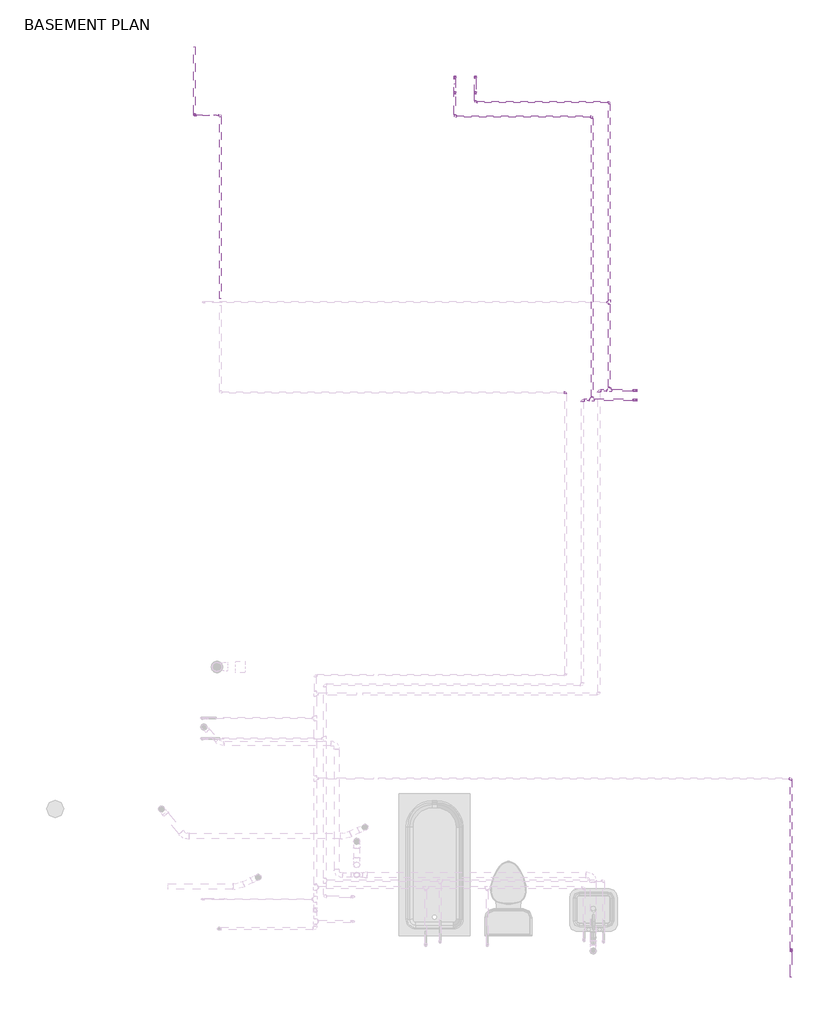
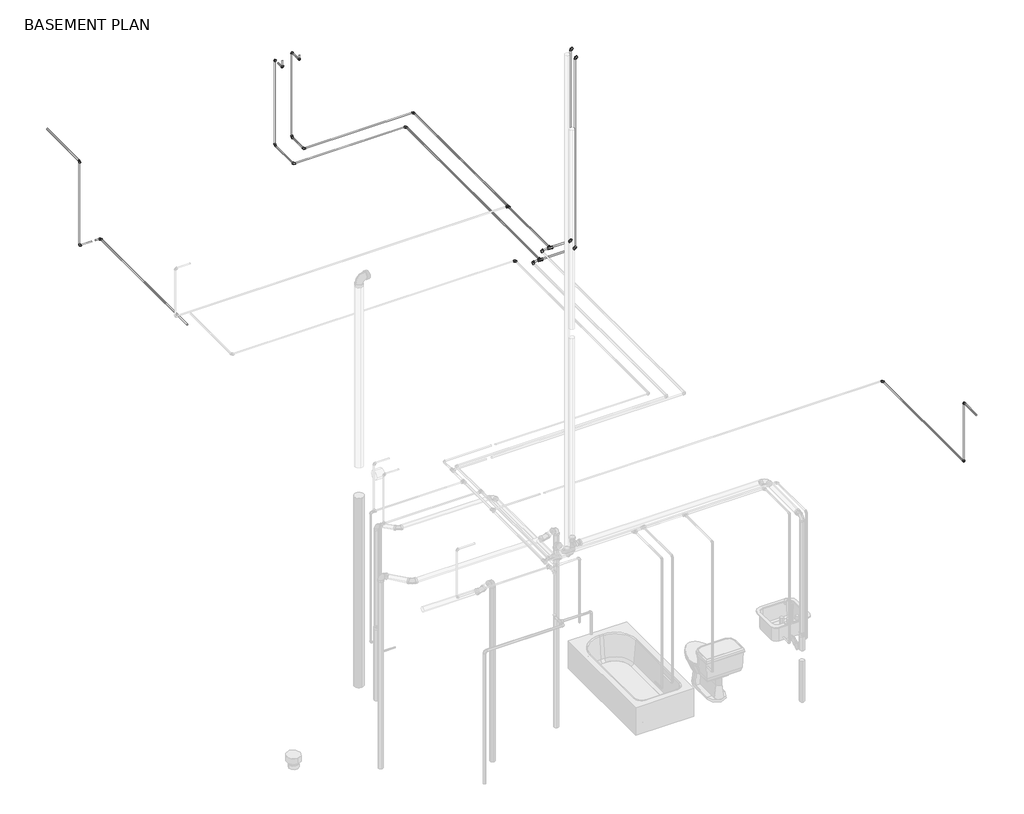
# One storey, part 6 of 6: 28 pipe fittings, 28 pipe segments.
"""IFC4 building model written with IfcOpenShell, lengths in millimetres."""

from ifc_helpers import new_model, si_unit, point, frame, frame_2d, origin, place, context, project, spatial, circle_curve, trimmed, segment, composite_curve, outline, extrude, transform, mapped, element, save
from components import pipe_elbow_copper_k_feaaf02c, pipe_elbow_copper_k_aad62f2d, pipe_tee_copper_k_ee363fbf, pipe_tee_copper_k_1a6ca384, pipe_transition_copper_k_859ff352

model = new_model("IFC4")

# Units and contexts
model_context = context("Model", 3, world=origin())
ifc_project = project(units=[si_unit("LENGTHUNIT", "METRE", prefix="MILLI")], contexts=[model_context])

# Site, building, storey
site = spatial("IfcSite", under=ifc_project)
building = spatial("IfcBuilding", under=site)
storey = spatial("IfcBuildingStorey", under=building, Name="BASEMENT PLAN", Elevation=-2743.2)

# Pipe fittings
placement = place(None, origin())
pipe_elbow_copper_k_shape = pipe_elbow_copper_k_feaaf02c(model_context)
element("IfcPipeFitting", 1, ObjectType="Pipe Elbow : Copper- K", at=placement, inside=storey, context=model_context, shape_type="MappedRepresentation", body=[
    mapped(pipe_elbow_copper_k_shape, transform((16039.707614, 10005.2226376, -372.5523585), x_axis=(1.0, 0.0, 0.0), y_axis=(0.0, 0.0, 1.0), z_axis=(0.0, -1.0, 0.0))),
])
element("IfcPipeFitting", 2, ObjectType="Pipe Elbow : Copper- K", at=placement, inside=storey, context=model_context, shape_type="MappedRepresentation", body=[
    mapped(pipe_elbow_copper_k_shape, transform((15653.8646023, 10106.9381796, -334.4523585), x_axis=(-1.0, 0.0, 0.0), y_axis=(0.0, -1.0, 0.0), z_axis=(0.0, 0.0, 1.0))),
])
element("IfcPipeFitting", 3, ObjectType="Pipe Elbow : Copper- K", at=placement, inside=storey, context=model_context, shape_type="MappedRepresentation", body=[
    mapped(pipe_elbow_copper_k_shape, transform((15478.2943208, 10005.2226376, -372.5523585), x_axis=(-1.0, 0.0, 0.0), y_axis=(0.0, -1.0, 0.0), z_axis=(0.0, 0.0, 1.0))),
])
element("IfcPipeFitting", 4, ObjectType="Pipe Elbow : Copper- K", at=placement, inside=storey, context=model_context, shape_type="MappedRepresentation", body=[
    mapped(pipe_elbow_copper_k_shape, transform((16039.707614, 10005.2226376, 2271.8592023), x_axis=(0.0, 0.0, 1.0), y_axis=(1.0, 0.0, 0.0), z_axis=(0.0, 1.0, 0.0))),
])
element("IfcPipeFitting", 5, ObjectType="Pipe Elbow : Copper- K", at=placement, inside=storey, context=model_context, shape_type="MappedRepresentation", body=[
    mapped(pipe_elbow_copper_k_shape, transform((16039.707614, 10106.9381796, -334.4523585), x_axis=(1.0, 0.0, 0.0), y_axis=(0.0, 0.0, 1.0), z_axis=(0.0, -1.0, 0.0))),
])
element("IfcPipeFitting", 6, ObjectType="Pipe Elbow : Copper- K", at=placement, inside=storey, context=model_context, shape_type="MappedRepresentation", body=[
    mapped(pipe_elbow_copper_k_shape, transform((16039.707614, 10106.9381796, 2328.0806516), x_axis=(0.0, 0.0, 1.0), y_axis=(1.0, 0.0, 0.0), z_axis=(0.0, 1.0, 0.0))),
])
pipe_elbow_copper_k_2_shape = pipe_elbow_copper_k_aad62f2d(model_context)
element("IfcPipeFitting", 7, ObjectType="Pipe Elbow : Copper- K", at=placement, inside=storey, context=model_context, shape_type="MappedRepresentation", body=[
    mapped(pipe_elbow_copper_k_2_shape, transform((14330.0949132, 13471.4628383, 839.299719), x_axis=(0.0, 0.0, 1.0), y_axis=(0.0, -1.0, 0.0), z_axis=(1.0, 0.0, 0.0))),
])
element("IfcPipeFitting", 8, ObjectType="Pipe Elbow : Copper- K", at=placement, inside=storey, context=model_context, shape_type="MappedRepresentation", body=[
    mapped(pipe_elbow_copper_k_2_shape, transform((14109.7413899, 13472.0135066, 810.6632556), x_axis=(0.0, 0.0, 1.0), y_axis=(0.0, -1.0, 0.0), z_axis=(1.0, 0.0, 0.0))),
])
element("IfcPipeFitting", 9, ObjectType="Pipe Elbow : Copper- K", at=placement, inside=storey, context=model_context, shape_type="MappedRepresentation", body=[
    mapped(pipe_elbow_copper_k_2_shape, transform((14109.7413899, 13472.0135066, -372.5523585), x_axis=(0.0, 0.0, -1.0), y_axis=(0.0, -1.0, 0.0), z_axis=(-1.0, 0.0, 0.0))),
])
element("IfcPipeFitting", 10, ObjectType="Pipe Elbow : Copper- K", at=placement, inside=storey, context=model_context, shape_type="MappedRepresentation", body=[
    mapped(pipe_elbow_copper_k_2_shape, transform((14330.0949132, 13471.4628383, -334.4523585), x_axis=(0.0, 0.0, -1.0), y_axis=(0.0, -1.0, 0.0), z_axis=(-1.0, 0.0, 0.0))),
])
element("IfcPipeFitting", 11, ObjectType="Pipe Elbow : Copper- K", at=placement, inside=storey, context=model_context, shape_type="MappedRepresentation", body=[
    mapped(pipe_elbow_copper_k_2_shape, transform((14330.0949132, 13198.4128383, -334.4523585), x_axis=(0.0, -1.0, 0.0), y_axis=(1.0, 0.0, 0.0), z_axis=(0.0, 0.0, 1.0))),
])
element("IfcPipeFitting", 12, ObjectType="Pipe Elbow : Copper- K", at=placement, inside=storey, context=model_context, shape_type="MappedRepresentation", body=[
    mapped(pipe_elbow_copper_k_2_shape, transform((14109.7413899, 13045.0490306, -372.5523585), x_axis=(0.0, -1.0, 0.0), y_axis=(1.0, 0.0, 0.0), z_axis=(0.0, 0.0, 1.0))),
])
element("IfcPipeFitting", 13, ObjectType="Pipe Elbow : Copper- K", at=placement, inside=storey, context=model_context, shape_type="MappedRepresentation", body=[
    mapped(pipe_elbow_copper_k_2_shape, transform((15767.161215, 13198.4128383, -334.4523585), x_axis=(0.0, 1.0, 0.0), y_axis=(-1.0, 0.0, 0.0), z_axis=(0.0, 0.0, 1.0))),
])
element("IfcPipeFitting", 14, ObjectType="Pipe Elbow : Copper- K", at=placement, inside=storey, context=model_context, shape_type="MappedRepresentation", body=[
    mapped(pipe_elbow_copper_k_2_shape, transform((15580.069596, 13045.0490306, -372.5523585), x_axis=(0.0, 1.0, 0.0), y_axis=(-1.0, 0.0, 0.0), z_axis=(0.0, 0.0, 1.0))),
])
element("IfcPipeFitting", 15, ObjectType="Pipe Elbow : Copper- K", at=placement, inside=storey, context=model_context, shape_type="MappedRepresentation", body=[
    mapped(pipe_elbow_copper_k_2_shape, transform((15300.3787788, 10086.3006796, -334.4523585), x_axis=(0.0, 1.0, 0.0), y_axis=(-1.0, 0.0, 0.0), z_axis=(0.0, 0.0, 1.0))),
])
element("IfcPipeFitting", 16, ObjectType="Pipe Elbow : Copper- K", at=placement, inside=storey, context=model_context, shape_type="MappedRepresentation", body=[
    mapped(pipe_elbow_copper_k_2_shape, transform((11591.9787788, 13058.1006796, -533.4), x_axis=(0.0, 1.0, 0.0), y_axis=(-1.0, 0.0, 0.0), z_axis=(0.0, 0.0, 1.0))),
])
element("IfcPipeFitting", 17, ObjectType="Pipe Elbow : Copper- K", at=placement, inside=storey, context=model_context, shape_type="MappedRepresentation", body=[
    mapped(pipe_elbow_copper_k_2_shape, transform((11316.5254798, 13058.1006796, -533.4), x_axis=(-1.0, 0.0, 0.0), y_axis=(0.0, 0.0, 1.0), z_axis=(0.0, 1.0, 0.0))),
])
element("IfcPipeFitting", 18, ObjectType="Pipe Elbow : Copper- K", at=placement, inside=storey, context=model_context, shape_type="MappedRepresentation", body=[
    mapped(pipe_elbow_copper_k_2_shape, transform((11316.5254798, 13058.1006796, 635.0), x_axis=(0.0, 0.0, 1.0), y_axis=(0.0, 1.0, 0.0), z_axis=(-1.0, 0.0, 0.0))),
])
element("IfcPipeFitting", 19, ObjectType="Pipe Elbow : Copper- K", at=placement, inside=storey, context=model_context, shape_type="MappedRepresentation", body=[
    mapped(pipe_elbow_copper_k_2_shape, transform((17717.3254798, 5945.0618491, -334.4523585), x_axis=(0.0, 1.0, 0.0), y_axis=(-1.0, 0.0, 0.0), z_axis=(0.0, 0.0, 1.0))),
])
element("IfcPipeFitting", 20, ObjectType="Pipe Elbow : Copper- K", at=placement, inside=storey, context=model_context, shape_type="MappedRepresentation", body=[
    mapped(pipe_elbow_copper_k_2_shape, transform((17717.3254798, 4104.2490306, -334.4523585), x_axis=(0.0, -1.0, 0.0), y_axis=(0.0, 0.0, 1.0), z_axis=(-1.0, 0.0, 0.0))),
])
element("IfcPipeFitting", 21, ObjectType="Pipe Elbow : Copper- K", at=placement, inside=storey, context=model_context, shape_type="MappedRepresentation", body=[
    mapped(pipe_elbow_copper_k_2_shape, transform((17717.3254798, 4104.2490306, 482.6), x_axis=(0.0, 0.0, 1.0), y_axis=(0.0, -1.0, 0.0), z_axis=(1.0, 0.0, 0.0))),
])
element("IfcPipeFitting", 22, ObjectType="Pipe Elbow : Copper- K", at=placement, inside=storey, context=model_context, shape_type="MappedRepresentation", body=[
    mapped(pipe_elbow_copper_k_2_shape, transform((14109.7413899, 13295.0801375, 810.6632556), x_axis=(0.0, -1.0, 0.0), y_axis=(0.0, 0.0, 1.0), z_axis=(-1.0, 0.0, 0.0))),
])
element("IfcPipeFitting", 23, ObjectType="Pipe Elbow : Copper- K", at=placement, inside=storey, context=model_context, shape_type="MappedRepresentation", body=[
    mapped(pipe_elbow_copper_k_2_shape, transform((14330.0949132, 13295.0801375, 839.299719), x_axis=(0.0, -1.0, 0.0), y_axis=(0.0, 0.0, 1.0), z_axis=(-1.0, 0.0, 0.0))),
])
pipe_tee_copper_k_shape = pipe_tee_copper_k_ee363fbf(model_context)
element("IfcPipeFitting", 24, ObjectType="Pipe Tee : Copper- K", at=placement, inside=storey, context=model_context, shape_type="MappedRepresentation", body=[
    mapped(pipe_tee_copper_k_shape, transform((15580.069596, 10005.2226376, -372.5523585), x_axis=(-1.0, 0.0, 0.0), y_axis=(0.0, -1.0, 0.0), z_axis=(0.0, 0.0, 1.0))),
])
element("IfcPipeFitting", 25, ObjectType="Pipe Tee : Copper- K", at=placement, inside=storey, context=model_context, shape_type="MappedRepresentation", body=[
    mapped(pipe_tee_copper_k_shape, transform((15767.161215, 10106.9381796, -334.4523585), x_axis=(-1.0, 0.0, 0.0), y_axis=(0.0, -1.0, 0.0), z_axis=(0.0, 0.0, 1.0))),
])
pipe_tee_copper_k_2_shape = pipe_tee_copper_k_1a6ca384(model_context)
element("IfcPipeFitting", 26, ObjectType="Pipe Tee : Copper- K", at=placement, inside=storey, context=model_context, shape_type="MappedRepresentation", body=[
    mapped(pipe_tee_copper_k_2_shape, transform((15767.161215, 11054.3580205, -334.4523585), x_axis=(0.0, -1.0, 0.0), y_axis=(1.0, 0.0, 0.0), z_axis=(0.0, 0.0, 1.0))),
])
pipe_transition_copper_k_shape = pipe_transition_copper_k_859ff352(model_context)
element("IfcPipeFitting", 27, ObjectType="Pipe Transition : Copper- K", at=placement, inside=storey, context=model_context, shape_type="MappedRepresentation", body=[
    mapped(pipe_transition_copper_k_shape, transform((15580.069596, 10032.2101376, -372.5523585), x_axis=(0.0, 1.0, 0.0), y_axis=(-1.0, 0.0, 0.0), z_axis=(0.0, 0.0, 1.0))),
])
element("IfcPipeFitting", 28, ObjectType="Pipe Transition : Copper- K", at=placement, inside=storey, context=model_context, shape_type="MappedRepresentation", body=[
    mapped(pipe_transition_copper_k_shape, transform((15767.161215, 10133.9256796, -334.4523585), x_axis=(0.0, 1.0, 0.0), y_axis=(-1.0, 0.0, 0.0), z_axis=(0.0, 0.0, 1.0))),
])

# Pipe segments
element("IfcPipeSegment", 29, ObjectType="Copper", at=placement, inside=storey, context=model_context, shape_type="SweptSolid", body=[
    extrude(outline(composite_curve([segment(trimmed(circle_curve(frame_2d((10005.2226376, -372.5523585)), 11.1125), [point((9994.1101376, -372.5523585))], [point((10005.2226376, -361.4398585))], False, "CARTESIAN"), True, "CONTINUOUS"), segment(trimmed(circle_curve(frame_2d((10005.2226376, -372.5523585)), 11.1125), [point((10005.2226376, -361.4398585))], [point((10016.3351376, -372.5523585))], False, "CARTESIAN"), True, "CONTINUOUS"), segment(trimmed(circle_curve(frame_2d((10005.2226376, -372.5523585)), 11.1125), [point((10016.3351376, -372.5523585))], [point((10005.2226376, -383.6648585))], False, "CARTESIAN"), True, "CONTINUOUS"), segment(trimmed(circle_curve(frame_2d((10005.2226376, -372.5523585)), 11.1125), [point((10005.2226376, -383.6648585))], [point((9994.1101376, -372.5523585))], False, "CARTESIAN"), True, "CONTINUOUS")], self_intersect=False)), frame((15607.057096, 0.0, 0.0), z_axis=(1.0, 0.0, 0.0), x_axis=(0.0, 1.0, 0.0)), (0.0, 0.0, 1.0), 412.013018),
])
element("IfcPipeSegment", 30, ObjectType="Copper", at=placement, inside=storey, context=model_context, shape_type="SweptSolid", body=[
    extrude(outline(composite_curve([segment(trimmed(circle_curve(frame_2d((16039.707614, 10005.2226376)), 11.1125), [point((16028.595114, 10005.2226376))], [point((16039.707614, 10016.3351376))], False, "CARTESIAN"), True, "CONTINUOUS"), segment(trimmed(circle_curve(frame_2d((16039.707614, 10005.2226376)), 11.1125), [point((16039.707614, 10016.3351376))], [point((16050.820114, 10005.2226376))], False, "CARTESIAN"), True, "CONTINUOUS"), segment(trimmed(circle_curve(frame_2d((16039.707614, 10005.2226376)), 11.1125), [point((16050.820114, 10005.2226376))], [point((16039.707614, 9994.1101376))], False, "CARTESIAN"), True, "CONTINUOUS"), segment(trimmed(circle_curve(frame_2d((16039.707614, 10005.2226376)), 11.1125), [point((16039.707614, 9994.1101376))], [point((16028.595114, 10005.2226376))], False, "CARTESIAN"), True, "CONTINUOUS")], self_intersect=False)), frame((0.0, 0.0, -351.9148585), z_axis=(0.0, 0.0, 1.0), x_axis=(1.0, 0.0, 0.0)), (0.0, 0.0, 1.0), 2603.1365609),
])
element("IfcPipeSegment", 31, ObjectType="Copper", at=placement, inside=storey, context=model_context, shape_type="SweptSolid", body=[
    extrude(outline(composite_curve([segment(trimmed(circle_curve(frame_2d((14330.0949132, 13471.4628383)), 7.9375), [point((14322.1574132, 13471.4628383))], [point((14330.0949132, 13479.4003383))], False, "CARTESIAN"), True, "CONTINUOUS"), segment(trimmed(circle_curve(frame_2d((14330.0949132, 13471.4628383)), 7.9375), [point((14330.0949132, 13479.4003383))], [point((14338.0324132, 13471.4628383))], False, "CARTESIAN"), True, "CONTINUOUS"), segment(trimmed(circle_curve(frame_2d((14330.0949132, 13471.4628383)), 7.9375), [point((14338.0324132, 13471.4628383))], [point((14330.0949132, 13463.5253383))], False, "CARTESIAN"), True, "CONTINUOUS"), segment(trimmed(circle_curve(frame_2d((14330.0949132, 13471.4628383)), 7.9375), [point((14330.0949132, 13463.5253383))], [point((14322.1574132, 13471.4628383))], False, "CARTESIAN"), True, "CONTINUOUS")], self_intersect=False)), frame((0.0, 0.0, -316.9898585), z_axis=(0.0, 0.0, 1.0), x_axis=(1.0, 0.0, 0.0)), (0.0, 0.0, 1.0), 1138.8270776),
])
element("IfcPipeSegment", 32, ObjectType="Copper", at=placement, inside=storey, context=model_context, shape_type="SweptSolid", body=[
    extrude(outline(composite_curve([segment(trimmed(circle_curve(frame_2d((839.299719, 14330.0949132)), 7.9375), [point((839.299719, 14322.1574132))], [point((831.362219, 14330.0949132))], False, "CARTESIAN"), True, "CONTINUOUS"), segment(trimmed(circle_curve(frame_2d((839.299719, 14330.0949132)), 7.9375), [point((831.362219, 14330.0949132))], [point((839.299719, 14338.0324132))], False, "CARTESIAN"), True, "CONTINUOUS"), segment(trimmed(circle_curve(frame_2d((839.299719, 14330.0949132)), 7.9375), [point((839.299719, 14338.0324132))], [point((847.237219, 14330.0949132))], False, "CARTESIAN"), True, "CONTINUOUS"), segment(trimmed(circle_curve(frame_2d((839.299719, 14330.0949132)), 7.9375), [point((847.237219, 14330.0949132))], [point((839.299719, 14322.1574132))], False, "CARTESIAN"), True, "CONTINUOUS")], self_intersect=False)), frame((0.0, 13312.5426375, 0.0), z_axis=(0.0, 1.0, 0.0), x_axis=(0.0, 0.0, 1.0)), (0.0, 0.0, 1.0), 141.4577008),
])
element("IfcPipeSegment", 33, ObjectType="Copper", at=placement, inside=storey, context=model_context, shape_type="SweptSolid", body=[
    extrude(outline(composite_curve([segment(trimmed(circle_curve(frame_2d((14109.7413899, 13472.0135066)), 7.9375), [point((14101.8038899, 13472.0135066))], [point((14109.7413899, 13479.9510066))], False, "CARTESIAN"), True, "CONTINUOUS"), segment(trimmed(circle_curve(frame_2d((14109.7413899, 13472.0135066)), 7.9375), [point((14109.7413899, 13479.9510066))], [point((14117.6788899, 13472.0135066))], False, "CARTESIAN"), True, "CONTINUOUS"), segment(trimmed(circle_curve(frame_2d((14109.7413899, 13472.0135066)), 7.9375), [point((14117.6788899, 13472.0135066))], [point((14109.7413899, 13464.0760066))], False, "CARTESIAN"), True, "CONTINUOUS"), segment(trimmed(circle_curve(frame_2d((14109.7413899, 13472.0135066)), 7.9375), [point((14109.7413899, 13464.0760066))], [point((14101.8038899, 13472.0135066))], False, "CARTESIAN"), True, "CONTINUOUS")], self_intersect=False)), frame((0.0, 0.0, -355.0898585), z_axis=(0.0, 0.0, 1.0), x_axis=(1.0, 0.0, 0.0)), (0.0, 0.0, 1.0), 1148.2906141),
])
element("IfcPipeSegment", 34, ObjectType="Copper", at=placement, inside=storey, context=model_context, shape_type="SweptSolid", body=[
    extrude(outline(composite_curve([segment(trimmed(circle_curve(frame_2d((-334.4523585, 14330.0949132)), 7.9375), [point((-334.4523585, 14322.1574132))], [point((-342.3898585, 14330.0949132))], False, "CARTESIAN"), True, "CONTINUOUS"), segment(trimmed(circle_curve(frame_2d((-334.4523585, 14330.0949132)), 7.9375), [point((-342.3898585, 14330.0949132))], [point((-334.4523585, 14338.0324132))], False, "CARTESIAN"), True, "CONTINUOUS"), segment(trimmed(circle_curve(frame_2d((-334.4523585, 14330.0949132)), 7.9375), [point((-334.4523585, 14338.0324132))], [point((-326.5148585, 14330.0949132))], False, "CARTESIAN"), True, "CONTINUOUS"), segment(trimmed(circle_curve(frame_2d((-334.4523585, 14330.0949132)), 7.9375), [point((-326.5148585, 14330.0949132))], [point((-334.4523585, 14322.1574132))], False, "CARTESIAN"), True, "CONTINUOUS")], self_intersect=False)), frame((0.0, 13215.8753383, 0.0), z_axis=(0.0, 1.0, 0.0), x_axis=(0.0, 0.0, 1.0)), (0.0, 0.0, 1.0), 238.125),
])
element("IfcPipeSegment", 35, ObjectType="Copper", at=placement, inside=storey, context=model_context, shape_type="SweptSolid", body=[
    extrude(outline(composite_curve([segment(trimmed(circle_curve(frame_2d((-372.5523585, 14109.7413899)), 7.9375), [point((-372.5523585, 14101.8038899))], [point((-380.4898585, 14109.7413899))], False, "CARTESIAN"), True, "CONTINUOUS"), segment(trimmed(circle_curve(frame_2d((-372.5523585, 14109.7413899)), 7.9375), [point((-380.4898585, 14109.7413899))], [point((-372.5523585, 14117.6788899))], False, "CARTESIAN"), True, "CONTINUOUS"), segment(trimmed(circle_curve(frame_2d((-372.5523585, 14109.7413899)), 7.9375), [point((-372.5523585, 14117.6788899))], [point((-364.6148585, 14109.7413899))], False, "CARTESIAN"), True, "CONTINUOUS"), segment(trimmed(circle_curve(frame_2d((-372.5523585, 14109.7413899)), 7.9375), [point((-364.6148585, 14109.7413899))], [point((-372.5523585, 14101.8038899))], False, "CARTESIAN"), True, "CONTINUOUS")], self_intersect=False)), frame((0.0, 13062.5115306, 0.0), z_axis=(0.0, 1.0, 0.0), x_axis=(0.0, 0.0, 1.0)), (0.0, 0.0, 1.0), 392.0394759),
])
element("IfcPipeSegment", 36, ObjectType="Copper", at=placement, inside=storey, context=model_context, shape_type="SweptSolid", body=[
    extrude(outline(composite_curve([segment(trimmed(circle_curve(frame_2d((13045.0490306, -372.5523585)), 7.9375), [point((13037.1115306, -372.5523585))], [point((13045.0490306, -364.6148585))], False, "CARTESIAN"), True, "CONTINUOUS"), segment(trimmed(circle_curve(frame_2d((13045.0490306, -372.5523585)), 7.9375), [point((13045.0490306, -364.6148585))], [point((13052.9865306, -372.5523585))], False, "CARTESIAN"), True, "CONTINUOUS"), segment(trimmed(circle_curve(frame_2d((13045.0490306, -372.5523585)), 7.9375), [point((13052.9865306, -372.5523585))], [point((13045.0490306, -380.4898585))], False, "CARTESIAN"), True, "CONTINUOUS"), segment(trimmed(circle_curve(frame_2d((13045.0490306, -372.5523585)), 7.9375), [point((13045.0490306, -380.4898585))], [point((13037.1115306, -372.5523585))], False, "CARTESIAN"), True, "CONTINUOUS")], self_intersect=False)), frame((14127.2038899, 0.0, 0.0), z_axis=(1.0, 0.0, 0.0), x_axis=(0.0, 1.0, 0.0)), (0.0, 0.0, 1.0), 1435.4032062),
])
element("IfcPipeSegment", 37, ObjectType="Copper", at=placement, inside=storey, context=model_context, shape_type="SweptSolid", body=[
    extrude(outline(composite_curve([segment(trimmed(circle_curve(frame_2d((-372.5523585, 15580.069596)), 7.9375), [point((-372.5523585, 15588.007096))], [point((-364.6148585, 15580.069596))], False, "CARTESIAN"), True, "CONTINUOUS"), segment(trimmed(circle_curve(frame_2d((-372.5523585, 15580.069596)), 7.9375), [point((-364.6148585, 15580.069596))], [point((-372.5523585, 15572.132096))], False, "CARTESIAN"), True, "CONTINUOUS"), segment(trimmed(circle_curve(frame_2d((-372.5523585, 15580.069596)), 7.9375), [point((-372.5523585, 15572.132096))], [point((-380.4898585, 15580.069596))], False, "CARTESIAN"), True, "CONTINUOUS"), segment(trimmed(circle_curve(frame_2d((-372.5523585, 15580.069596)), 7.9375), [point((-380.4898585, 15580.069596))], [point((-372.5523585, 15588.007096))], False, "CARTESIAN"), True, "CONTINUOUS")], self_intersect=False)), frame((0.0, 10037.7663876, 0.0), z_axis=(0.0, 1.0, 0.0), x_axis=(0.0, 0.0, 1.0)), (0.0, 0.0, 1.0), 2989.820143),
])
element("IfcPipeSegment", 38, ObjectType="Copper", at=placement, inside=storey, context=model_context, shape_type="SweptSolid", body=[
    extrude(outline(composite_curve([segment(trimmed(circle_curve(frame_2d((13198.4128383, -334.4523585)), 7.9375), [point((13190.4753383, -334.4523585))], [point((13198.4128383, -326.5148585))], False, "CARTESIAN"), True, "CONTINUOUS"), segment(trimmed(circle_curve(frame_2d((13198.4128383, -334.4523585)), 7.9375), [point((13198.4128383, -326.5148585))], [point((13206.3503383, -334.4523585))], False, "CARTESIAN"), True, "CONTINUOUS"), segment(trimmed(circle_curve(frame_2d((13198.4128383, -334.4523585)), 7.9375), [point((13206.3503383, -334.4523585))], [point((13198.4128383, -342.3898585))], False, "CARTESIAN"), True, "CONTINUOUS"), segment(trimmed(circle_curve(frame_2d((13198.4128383, -334.4523585)), 7.9375), [point((13198.4128383, -342.3898585))], [point((13190.4753383, -334.4523585))], False, "CARTESIAN"), True, "CONTINUOUS")], self_intersect=False)), frame((14347.5574132, 0.0, 0.0), z_axis=(1.0, 0.0, 0.0), x_axis=(0.0, 1.0, 0.0)), (0.0, 0.0, 1.0), 1402.1413018),
])
element("IfcPipeSegment", 39, ObjectType="Copper", at=placement, inside=storey, context=model_context, shape_type="SweptSolid", body=[
    extrude(outline(composite_curve([segment(trimmed(circle_curve(frame_2d((-334.4523585, 15767.161215)), 7.9375), [point((-334.4523585, 15775.098715))], [point((-326.5148585, 15767.161215))], False, "CARTESIAN"), True, "CONTINUOUS"), segment(trimmed(circle_curve(frame_2d((-334.4523585, 15767.161215)), 7.9375), [point((-326.5148585, 15767.161215))], [point((-334.4523585, 15759.223715))], False, "CARTESIAN"), True, "CONTINUOUS"), segment(trimmed(circle_curve(frame_2d((-334.4523585, 15767.161215)), 7.9375), [point((-334.4523585, 15759.223715))], [point((-342.3898585, 15767.161215))], False, "CARTESIAN"), True, "CONTINUOUS"), segment(trimmed(circle_curve(frame_2d((-334.4523585, 15767.161215)), 7.9375), [point((-342.3898585, 15767.161215))], [point((-334.4523585, 15775.098715))], False, "CARTESIAN"), True, "CONTINUOUS")], self_intersect=False)), frame((0.0, 11078.1705205, 0.0), z_axis=(0.0, 1.0, 0.0), x_axis=(0.0, 0.0, 1.0)), (0.0, 0.0, 1.0), 2102.7798178),
])
element("IfcPipeSegment", 40, ObjectType="Copper", at=placement, inside=storey, context=model_context, shape_type="SweptSolid", body=[
    extrude(outline(composite_curve([segment(trimmed(circle_curve(frame_2d((10005.2226376, -372.5523585)), 11.1125), [point((9994.1101376, -372.5523585))], [point((10005.2226376, -361.4398585))], False, "CARTESIAN"), True, "CONTINUOUS"), segment(trimmed(circle_curve(frame_2d((10005.2226376, -372.5523585)), 11.1125), [point((10005.2226376, -361.4398585))], [point((10016.3351376, -372.5523585))], False, "CARTESIAN"), True, "CONTINUOUS"), segment(trimmed(circle_curve(frame_2d((10005.2226376, -372.5523585)), 11.1125), [point((10016.3351376, -372.5523585))], [point((10005.2226376, -383.6648585))], False, "CARTESIAN"), True, "CONTINUOUS"), segment(trimmed(circle_curve(frame_2d((10005.2226376, -372.5523585)), 11.1125), [point((10005.2226376, -383.6648585))], [point((9994.1101376, -372.5523585))], False, "CARTESIAN"), True, "CONTINUOUS")], self_intersect=False)), frame((15498.9318208, 0.0, 0.0), z_axis=(1.0, 0.0, 0.0), x_axis=(0.0, 1.0, 0.0)), (0.0, 0.0, 1.0), 54.1502753),
])
element("IfcPipeSegment", 41, ObjectType="Copper", at=placement, inside=storey, context=model_context, shape_type="SweptSolid", body=[
    extrude(outline(composite_curve([segment(trimmed(circle_curve(frame_2d((-334.4523585, 15767.161215)), 7.9375), [point((-334.4523585, 15759.223715))], [point((-342.3898585, 15767.161215))], False, "CARTESIAN"), True, "CONTINUOUS"), segment(trimmed(circle_curve(frame_2d((-334.4523585, 15767.161215)), 7.9375), [point((-342.3898585, 15767.161215))], [point((-334.4523585, 15775.098715))], False, "CARTESIAN"), True, "CONTINUOUS"), segment(trimmed(circle_curve(frame_2d((-334.4523585, 15767.161215)), 7.9375), [point((-334.4523585, 15775.098715))], [point((-326.5148585, 15767.161215))], False, "CARTESIAN"), True, "CONTINUOUS"), segment(trimmed(circle_curve(frame_2d((-334.4523585, 15767.161215)), 7.9375), [point((-326.5148585, 15767.161215))], [point((-334.4523585, 15759.223715))], False, "CARTESIAN"), True, "CONTINUOUS")], self_intersect=False)), frame((0.0, 10139.4819296, 0.0), z_axis=(0.0, 1.0, 0.0), x_axis=(0.0, 0.0, 1.0)), (0.0, 0.0, 1.0), 891.0635909),
])
element("IfcPipeSegment", 42, ObjectType="Copper", at=placement, inside=storey, context=model_context, shape_type="SweptSolid", body=[
    extrude(outline(composite_curve([segment(trimmed(circle_curve(frame_2d((10106.9381796, -334.4523585)), 11.1125), [point((10095.8256796, -334.4523585))], [point((10106.9381796, -323.3398585))], False, "CARTESIAN"), True, "CONTINUOUS"), segment(trimmed(circle_curve(frame_2d((10106.9381796, -334.4523585)), 11.1125), [point((10106.9381796, -323.3398585))], [point((10118.0506796, -334.4523585))], False, "CARTESIAN"), True, "CONTINUOUS"), segment(trimmed(circle_curve(frame_2d((10106.9381796, -334.4523585)), 11.1125), [point((10118.0506796, -334.4523585))], [point((10106.9381796, -345.5648585))], False, "CARTESIAN"), True, "CONTINUOUS"), segment(trimmed(circle_curve(frame_2d((10106.9381796, -334.4523585)), 11.1125), [point((10106.9381796, -345.5648585))], [point((10095.8256796, -334.4523585))], False, "CARTESIAN"), True, "CONTINUOUS")], self_intersect=False)), frame((15794.148715, 0.0, 0.0), z_axis=(1.0, 0.0, 0.0), x_axis=(0.0, 1.0, 0.0)), (0.0, 0.0, 1.0), 224.9213991),
])
element("IfcPipeSegment", 43, ObjectType="Copper", at=placement, inside=storey, context=model_context, shape_type="SweptSolid", body=[
    extrude(outline(composite_curve([segment(trimmed(circle_curve(frame_2d((10106.9381796, -334.4523585)), 11.1125), [point((10095.8256796, -334.4523585))], [point((10106.9381796, -323.3398585))], False, "CARTESIAN"), True, "CONTINUOUS"), segment(trimmed(circle_curve(frame_2d((10106.9381796, -334.4523585)), 11.1125), [point((10106.9381796, -323.3398585))], [point((10118.0506796, -334.4523585))], False, "CARTESIAN"), True, "CONTINUOUS"), segment(trimmed(circle_curve(frame_2d((10106.9381796, -334.4523585)), 11.1125), [point((10118.0506796, -334.4523585))], [point((10106.9381796, -345.5648585))], False, "CARTESIAN"), True, "CONTINUOUS"), segment(trimmed(circle_curve(frame_2d((10106.9381796, -334.4523585)), 11.1125), [point((10106.9381796, -345.5648585))], [point((10095.8256796, -334.4523585))], False, "CARTESIAN"), True, "CONTINUOUS")], self_intersect=False)), frame((15674.5021023, 0.0, 0.0), z_axis=(1.0, 0.0, 0.0), x_axis=(0.0, 1.0, 0.0)), (0.0, 0.0, 1.0), 65.6716127),
])
element("IfcPipeSegment", 44, ObjectType="Copper", at=placement, inside=storey, context=model_context, shape_type="SweptSolid", body=[
    extrude(outline(composite_curve([segment(trimmed(circle_curve(frame_2d((-533.4, 11591.9787788)), 7.9375), [point((-533.4, 11599.9162788))], [point((-525.4625, 11591.9787788))], False, "CARTESIAN"), True, "CONTINUOUS"), segment(trimmed(circle_curve(frame_2d((-533.4, 11591.9787788)), 7.9375), [point((-525.4625, 11591.9787788))], [point((-533.4, 11584.0412788))], False, "CARTESIAN"), True, "CONTINUOUS"), segment(trimmed(circle_curve(frame_2d((-533.4, 11591.9787788)), 7.9375), [point((-533.4, 11584.0412788))], [point((-541.3375, 11591.9787788))], False, "CARTESIAN"), True, "CONTINUOUS"), segment(trimmed(circle_curve(frame_2d((-533.4, 11591.9787788)), 7.9375), [point((-541.3375, 11591.9787788))], [point((-533.4, 11599.9162788))], False, "CARTESIAN"), True, "CONTINUOUS")], self_intersect=False)), frame((0.0, 11090.8705205, 0.0), z_axis=(0.0, 1.0, 0.0), x_axis=(0.0, 0.0, 1.0)), (0.0, 0.0, 1.0), 1949.7676591),
])
element("IfcPipeSegment", 45, ObjectType="Copper", at=placement, inside=storey, context=model_context, shape_type="SweptSolid", body=[
    extrude(outline(composite_curve([segment(trimmed(circle_curve(frame_2d((13058.1006796, -533.4)), 7.9375), [point((13066.0381796, -533.4))], [point((13058.1006796, -541.3375))], False, "CARTESIAN"), True, "CONTINUOUS"), segment(trimmed(circle_curve(frame_2d((13058.1006796, -533.4)), 7.9375), [point((13058.1006796, -541.3375))], [point((13050.1631796, -533.4))], False, "CARTESIAN"), True, "CONTINUOUS"), segment(trimmed(circle_curve(frame_2d((13058.1006796, -533.4)), 7.9375), [point((13050.1631796, -533.4))], [point((13058.1006796, -525.4625))], False, "CARTESIAN"), True, "CONTINUOUS"), segment(trimmed(circle_curve(frame_2d((13058.1006796, -533.4)), 7.9375), [point((13058.1006796, -525.4625))], [point((13066.0381796, -533.4))], False, "CARTESIAN"), True, "CONTINUOUS")], self_intersect=False)), frame((11333.9879798, 0.0, 0.0), z_axis=(1.0, 0.0, 0.0), x_axis=(0.0, 1.0, 0.0)), (0.0, 0.0, 1.0), 140.5001),
])
element("IfcPipeSegment", 46, ObjectType="Copper", at=placement, inside=storey, context=model_context, shape_type="SweptSolid", body=[
    extrude(outline(composite_curve([segment(trimmed(circle_curve(frame_2d((11316.5254798, 13058.1006796)), 7.9375), [point((11308.5879798, 13058.1006796))], [point((11316.5254798, 13066.0381796))], False, "CARTESIAN"), True, "CONTINUOUS"), segment(trimmed(circle_curve(frame_2d((11316.5254798, 13058.1006796)), 7.9375), [point((11316.5254798, 13066.0381796))], [point((11324.4629798, 13058.1006796))], False, "CARTESIAN"), True, "CONTINUOUS"), segment(trimmed(circle_curve(frame_2d((11316.5254798, 13058.1006796)), 7.9375), [point((11324.4629798, 13058.1006796))], [point((11316.5254798, 13050.1631796))], False, "CARTESIAN"), True, "CONTINUOUS"), segment(trimmed(circle_curve(frame_2d((11316.5254798, 13058.1006796)), 7.9375), [point((11316.5254798, 13050.1631796))], [point((11308.5879798, 13058.1006796))], False, "CARTESIAN"), True, "CONTINUOUS")], self_intersect=False)), frame((0.0, 0.0, -515.9375), z_axis=(0.0, 0.0, 1.0), x_axis=(1.0, 0.0, 0.0)), (0.0, 0.0, 1.0), 1133.475),
])
element("IfcPipeSegment", 47, ObjectType="Copper", at=placement, inside=storey, context=model_context, shape_type="SweptSolid", body=[
    extrude(outline(composite_curve([segment(trimmed(circle_curve(frame_2d((635.0, 11316.5254798)), 7.9375), [point((635.0, 11324.4629798))], [point((642.9375, 11316.5254798))], False, "CARTESIAN"), True, "CONTINUOUS"), segment(trimmed(circle_curve(frame_2d((635.0, 11316.5254798)), 7.9375), [point((642.9375, 11316.5254798))], [point((635.0, 11308.5879798))], False, "CARTESIAN"), True, "CONTINUOUS"), segment(trimmed(circle_curve(frame_2d((635.0, 11316.5254798)), 7.9375), [point((635.0, 11308.5879798))], [point((627.0625, 11316.5254798))], False, "CARTESIAN"), True, "CONTINUOUS"), segment(trimmed(circle_curve(frame_2d((635.0, 11316.5254798)), 7.9375), [point((627.0625, 11316.5254798))], [point((635.0, 11324.4629798))], False, "CARTESIAN"), True, "CONTINUOUS")], self_intersect=False)), frame((0.0, 13075.5631796, 0.0), z_axis=(0.0, 1.0, 0.0), x_axis=(0.0, 0.0, 1.0)), (0.0, 0.0, 1.0), 719.1375),
])
element("IfcPipeSegment", 48, ObjectType="Copper", at=placement, inside=storey, context=model_context, shape_type="SweptSolid", body=[
    extrude(outline(composite_curve([segment(trimmed(circle_curve(frame_2d((16039.707614, 10106.9381796)), 11.1125), [point((16028.595114, 10106.9381796))], [point((16039.707614, 10118.0506796))], False, "CARTESIAN"), True, "CONTINUOUS"), segment(trimmed(circle_curve(frame_2d((16039.707614, 10106.9381796)), 11.1125), [point((16039.707614, 10118.0506796))], [point((16050.820114, 10106.9381796))], False, "CARTESIAN"), True, "CONTINUOUS"), segment(trimmed(circle_curve(frame_2d((16039.707614, 10106.9381796)), 11.1125), [point((16050.820114, 10106.9381796))], [point((16039.707614, 10095.8256796))], False, "CARTESIAN"), True, "CONTINUOUS"), segment(trimmed(circle_curve(frame_2d((16039.707614, 10106.9381796)), 11.1125), [point((16039.707614, 10095.8256796))], [point((16028.595114, 10106.9381796))], False, "CARTESIAN"), True, "CONTINUOUS")], self_intersect=False)), frame((0.0, 0.0, -313.8148585), z_axis=(0.0, 0.0, 1.0), x_axis=(1.0, 0.0, 0.0)), (0.0, 0.0, 1.0), 2621.2580101),
])
element("IfcPipeSegment", 49, ObjectType="Copper", at=placement, inside=storey, context=model_context, shape_type="SweptSolid", body=[
    extrude(outline(composite_curve([segment(trimmed(circle_curve(frame_2d((-334.4523585, 17717.3254798)), 7.9375), [point((-334.4523585, 17709.3879798))], [point((-342.3898585, 17717.3254798))], False, "CARTESIAN"), True, "CONTINUOUS"), segment(trimmed(circle_curve(frame_2d((-334.4523585, 17717.3254798)), 7.9375), [point((-342.3898585, 17717.3254798))], [point((-334.4523585, 17725.2629798))], False, "CARTESIAN"), True, "CONTINUOUS"), segment(trimmed(circle_curve(frame_2d((-334.4523585, 17717.3254798)), 7.9375), [point((-334.4523585, 17725.2629798))], [point((-326.5148585, 17717.3254798))], False, "CARTESIAN"), True, "CONTINUOUS"), segment(trimmed(circle_curve(frame_2d((-334.4523585, 17717.3254798)), 7.9375), [point((-326.5148585, 17717.3254798))], [point((-334.4523585, 17709.3879798))], False, "CARTESIAN"), True, "CONTINUOUS")], self_intersect=False)), frame((0.0, 4121.7115306, 0.0), z_axis=(0.0, 1.0, 0.0), x_axis=(0.0, 0.0, 1.0)), (0.0, 0.0, 1.0), 1805.8878184),
])
element("IfcPipeSegment", 50, ObjectType="Copper", at=placement, inside=storey, context=model_context, shape_type="SweptSolid", body=[
    extrude(outline(composite_curve([segment(trimmed(circle_curve(frame_2d((17717.3254798, 4104.2490306)), 7.9375), [point((17709.3879798, 4104.2490306))], [point((17717.3254798, 4112.1865306))], False, "CARTESIAN"), True, "CONTINUOUS"), segment(trimmed(circle_curve(frame_2d((17717.3254798, 4104.2490306)), 7.9375), [point((17717.3254798, 4112.1865306))], [point((17725.2629798, 4104.2490306))], False, "CARTESIAN"), True, "CONTINUOUS"), segment(trimmed(circle_curve(frame_2d((17717.3254798, 4104.2490306)), 7.9375), [point((17725.2629798, 4104.2490306))], [point((17717.3254798, 4096.3115306))], False, "CARTESIAN"), True, "CONTINUOUS"), segment(trimmed(circle_curve(frame_2d((17717.3254798, 4104.2490306)), 7.9375), [point((17717.3254798, 4096.3115306))], [point((17709.3879798, 4104.2490306))], False, "CARTESIAN"), True, "CONTINUOUS")], self_intersect=False)), frame((0.0, 0.0, -316.9898585), z_axis=(0.0, 0.0, 1.0), x_axis=(1.0, 0.0, 0.0)), (0.0, 0.0, 1.0), 782.1273585),
])
element("IfcPipeSegment", 51, ObjectType="Copper", at=placement, inside=storey, context=model_context, shape_type="SweptSolid", body=[
    extrude(outline(composite_curve([segment(trimmed(circle_curve(frame_2d((482.6, 17717.3254798)), 7.9375), [point((482.6, 17709.3879798))], [point((474.6625, 17717.3254798))], False, "CARTESIAN"), True, "CONTINUOUS"), segment(trimmed(circle_curve(frame_2d((482.6, 17717.3254798)), 7.9375), [point((474.6625, 17717.3254798))], [point((482.6, 17725.2629798))], False, "CARTESIAN"), True, "CONTINUOUS"), segment(trimmed(circle_curve(frame_2d((482.6, 17717.3254798)), 7.9375), [point((482.6, 17725.2629798))], [point((490.5375, 17717.3254798))], False, "CARTESIAN"), True, "CONTINUOUS"), segment(trimmed(circle_curve(frame_2d((482.6, 17717.3254798)), 7.9375), [point((490.5375, 17717.3254798))], [point((482.6, 17709.3879798))], False, "CARTESIAN"), True, "CONTINUOUS")], self_intersect=False)), frame((0.0, 3811.4618491, 0.0), z_axis=(0.0, 1.0, 0.0), x_axis=(0.0, 0.0, 1.0)), (0.0, 0.0, 1.0), 275.3246816),
])
element("IfcPipeSegment", 52, ObjectType="Copper", at=placement, inside=storey, context=model_context, shape_type="SweptSolid", body=[
    extrude(outline(composite_curve([segment(trimmed(circle_curve(frame_2d((13058.1006796, -533.4)), 7.9375), [point((13066.0381796, -533.4))], [point((13058.1006796, -541.3375))], False, "CARTESIAN"), True, "CONTINUOUS"), segment(trimmed(circle_curve(frame_2d((13058.1006796, -533.4)), 7.9375), [point((13058.1006796, -541.3375))], [point((13050.1631796, -533.4))], False, "CARTESIAN"), True, "CONTINUOUS"), segment(trimmed(circle_curve(frame_2d((13058.1006796, -533.4)), 7.9375), [point((13050.1631796, -533.4))], [point((13058.1006796, -525.4625))], False, "CARTESIAN"), True, "CONTINUOUS"), segment(trimmed(circle_curve(frame_2d((13058.1006796, -533.4)), 7.9375), [point((13058.1006796, -525.4625))], [point((13066.0381796, -533.4))], False, "CARTESIAN"), True, "CONTINUOUS")], self_intersect=False)), frame((11526.8628798, 0.0, 0.0), z_axis=(1.0, 0.0, 0.0), x_axis=(0.0, 1.0, 0.0)), (0.0, 0.0, 1.0), 47.6533989),
])
element("IfcPipeSegment", 53, ObjectType="Copper", at=placement, inside=storey, context=model_context, shape_type="SweptSolid", body=[
    extrude(outline(composite_curve([segment(trimmed(circle_curve(frame_2d((810.6632556, 14109.7413899)), 7.9375), [point((810.6632556, 14101.8038899))], [point((802.7257556, 14109.7413899))], False, "CARTESIAN"), True, "CONTINUOUS"), segment(trimmed(circle_curve(frame_2d((810.6632556, 14109.7413899)), 7.9375), [point((802.7257556, 14109.7413899))], [point((810.6632556, 14117.6788899))], False, "CARTESIAN"), True, "CONTINUOUS"), segment(trimmed(circle_curve(frame_2d((810.6632556, 14109.7413899)), 7.9375), [point((810.6632556, 14117.6788899))], [point((818.6007556, 14109.7413899))], False, "CARTESIAN"), True, "CONTINUOUS"), segment(trimmed(circle_curve(frame_2d((810.6632556, 14109.7413899)), 7.9375), [point((818.6007556, 14109.7413899))], [point((810.6632556, 14101.8038899))], False, "CARTESIAN"), True, "CONTINUOUS")], self_intersect=False)), frame((0.0, 13312.5426375, 0.0), z_axis=(0.0, 1.0, 0.0), x_axis=(0.0, 0.0, 1.0)), (0.0, 0.0, 1.0), 83.3438931),
])
element("IfcPipeSegment", 54, ObjectType="Copper", at=placement, inside=storey, context=model_context, shape_type="SweptSolid", body=[
    extrude(outline(composite_curve([segment(trimmed(circle_curve(frame_2d((810.6632556, 14109.7413899)), 7.9375), [point((810.6632556, 14101.8038899))], [point((802.7257556, 14109.7413899))], False, "CARTESIAN"), True, "CONTINUOUS"), segment(trimmed(circle_curve(frame_2d((810.6632556, 14109.7413899)), 7.9375), [point((802.7257556, 14109.7413899))], [point((810.6632556, 14117.6788899))], False, "CARTESIAN"), True, "CONTINUOUS"), segment(trimmed(circle_curve(frame_2d((810.6632556, 14109.7413899)), 7.9375), [point((810.6632556, 14117.6788899))], [point((818.6007556, 14109.7413899))], False, "CARTESIAN"), True, "CONTINUOUS"), segment(trimmed(circle_curve(frame_2d((810.6632556, 14109.7413899)), 7.9375), [point((818.6007556, 14109.7413899))], [point((810.6632556, 14101.8038899))], False, "CARTESIAN"), True, "CONTINUOUS")], self_intersect=False)), frame((0.0, 13443.5115306, 0.0), z_axis=(0.0, 1.0, 0.0), x_axis=(0.0, 0.0, 1.0)), (0.0, 0.0, 1.0), 11.0394759),
])
element("IfcPipeSegment", 55, ObjectType="Copper", at=placement, inside=storey, context=model_context, shape_type="SweptSolid", body=[
    extrude(outline(composite_curve([segment(trimmed(circle_curve(frame_2d((14109.7413899, 13295.0801375)), 7.9375), [point((14101.8038899, 13295.0801375))], [point((14109.7413899, 13303.0176375))], False, "CARTESIAN"), True, "CONTINUOUS"), segment(trimmed(circle_curve(frame_2d((14109.7413899, 13295.0801375)), 7.9375), [point((14109.7413899, 13303.0176375))], [point((14117.6788899, 13295.0801375))], False, "CARTESIAN"), True, "CONTINUOUS"), segment(trimmed(circle_curve(frame_2d((14109.7413899, 13295.0801375)), 7.9375), [point((14117.6788899, 13295.0801375))], [point((14109.7413899, 13287.1426375))], False, "CARTESIAN"), True, "CONTINUOUS"), segment(trimmed(circle_curve(frame_2d((14109.7413899, 13295.0801375)), 7.9375), [point((14109.7413899, 13287.1426375))], [point((14101.8038899, 13295.0801375))], False, "CARTESIAN"), True, "CONTINUOUS")], self_intersect=False)), frame((0.0, 0.0, 828.1257556), z_axis=(0.0, 0.0, 1.0), x_axis=(1.0, 0.0, 0.0)), (0.0, 0.0, 1.0), 71.4375),
])
element("IfcPipeSegment", 56, ObjectType="Copper", at=placement, inside=storey, context=model_context, shape_type="SweptSolid", body=[
    extrude(outline(composite_curve([segment(trimmed(circle_curve(frame_2d((14330.0949132, 13295.0801375)), 7.9375), [point((14322.1574132, 13295.0801375))], [point((14330.0949132, 13303.0176375))], False, "CARTESIAN"), True, "CONTINUOUS"), segment(trimmed(circle_curve(frame_2d((14330.0949132, 13295.0801375)), 7.9375), [point((14330.0949132, 13303.0176375))], [point((14338.0324132, 13295.0801375))], False, "CARTESIAN"), True, "CONTINUOUS"), segment(trimmed(circle_curve(frame_2d((14330.0949132, 13295.0801375)), 7.9375), [point((14338.0324132, 13295.0801375))], [point((14330.0949132, 13287.1426375))], False, "CARTESIAN"), True, "CONTINUOUS"), segment(trimmed(circle_curve(frame_2d((14330.0949132, 13295.0801375)), 7.9375), [point((14330.0949132, 13287.1426375))], [point((14322.1574132, 13295.0801375))], False, "CARTESIAN"), True, "CONTINUOUS")], self_intersect=False)), frame((0.0, 0.0, 856.762219), z_axis=(0.0, 0.0, 1.0), x_axis=(1.0, 0.0, 0.0)), (0.0, 0.0, 1.0), 43.4592649),
])

save(model, "model.ifc")
